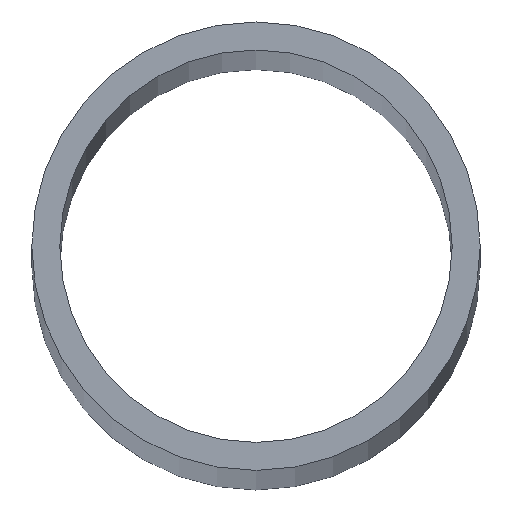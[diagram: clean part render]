
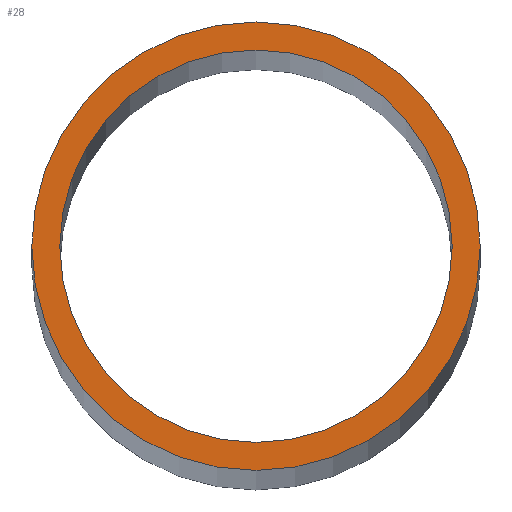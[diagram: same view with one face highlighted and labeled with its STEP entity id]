
A CAD part, top view. The second image highlights one B-rep face of the part: STEP entity #28.
In plain terms, the highlighted planar face has unit normal (0, 0, 1).
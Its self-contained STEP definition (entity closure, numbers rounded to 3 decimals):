
#4 = CIRCLE ( 'NONE', #54, 20. ) ;
#7 = AXIS2_PLACEMENT_3D ( 'NONE', #129, #162, #191 ) ;
#9 = AXIS2_PLACEMENT_3D ( 'NONE', #98, #143, #82 ) ;
#12 = CARTESIAN_POINT ( 'NONE',  ( 0., 0., 1000. ) ) ;
#14 = DIRECTION ( 'NONE',  ( 1., 0., 0. ) ) ;
#24 = AXIS2_PLACEMENT_3D ( 'NONE', #93, #89, #208 ) ;
#28 = ADVANCED_FACE ( 'NONE', ( #115, #203 ), #195, .T. ) ;
#33 = VERTEX_POINT ( 'NONE', #159 ) ;
#42 = CARTESIAN_POINT ( 'NONE',  ( -17.5, 0., 1000. ) ) ;
#54 = AXIS2_PLACEMENT_3D ( 'NONE', #188, #73, #14 ) ;
#59 = CIRCLE ( 'NONE', #9, 17.5 ) ;
#63 = AXIS2_PLACEMENT_3D ( 'NONE', #12, #210, #124 ) ;
#73 = DIRECTION ( 'NONE',  ( 0., 0., 1. ) ) ;
#75 = ORIENTED_EDGE ( 'NONE', *, *, #207, .T. ) ;
#81 = VERTEX_POINT ( 'NONE', #42 ) ;
#82 = DIRECTION ( 'NONE',  ( 1., 0., 0. ) ) ;
#88 = CARTESIAN_POINT ( 'NONE',  ( 17.5, 0., 1000. ) ) ;
#89 = DIRECTION ( 'NONE',  ( 0., 0., 1. ) ) ;
#93 = CARTESIAN_POINT ( 'NONE',  ( 0., 0., 1000. ) ) ;
#98 = CARTESIAN_POINT ( 'NONE',  ( 0., 0., 1000. ) ) ;
#102 = CIRCLE ( 'NONE', #63, 17.5 ) ;
#103 = EDGE_CURVE ( 'NONE', #140, #81, #59, .T. ) ;
#105 = CARTESIAN_POINT ( 'NONE',  ( 20., 0., 1000. ) ) ;
#108 = EDGE_LOOP ( 'NONE', ( #163, #126 ) ) ;
#115 = FACE_OUTER_BOUND ( 'NONE', #205, .T. ) ;
#124 = DIRECTION ( 'NONE',  ( 1., 0., 0. ) ) ;
#126 = ORIENTED_EDGE ( 'NONE', *, *, #103, .F. ) ;
#129 = CARTESIAN_POINT ( 'NONE',  ( 0., 0., 1000. ) ) ;
#137 = EDGE_CURVE ( 'NONE', #81, #140, #102, .T. ) ;
#140 = VERTEX_POINT ( 'NONE', #88 ) ;
#143 = DIRECTION ( 'NONE',  ( 0., 0., 1. ) ) ;
#145 = VERTEX_POINT ( 'NONE', #105 ) ;
#151 = EDGE_CURVE ( 'NONE', #145, #33, #4, .T. ) ;
#159 = CARTESIAN_POINT ( 'NONE',  ( -20., 0., 1000. ) ) ;
#162 = DIRECTION ( 'NONE',  ( 0., 0., 1. ) ) ;
#163 = ORIENTED_EDGE ( 'NONE', *, *, #137, .F. ) ;
#180 = ORIENTED_EDGE ( 'NONE', *, *, #151, .T. ) ;
#188 = CARTESIAN_POINT ( 'NONE',  ( 0., 0., 1000. ) ) ;
#191 = DIRECTION ( 'NONE',  ( 1., 0., 0. ) ) ;
#194 = CIRCLE ( 'NONE', #24, 20. ) ;
#195 = PLANE ( 'NONE',  #7 ) ;
#203 = FACE_BOUND ( 'NONE', #108, .T. ) ;
#205 = EDGE_LOOP ( 'NONE', ( #75, #180 ) ) ;
#207 = EDGE_CURVE ( 'NONE', #33, #145, #194, .T. ) ;
#208 = DIRECTION ( 'NONE',  ( 1., 0., 0. ) ) ;
#210 = DIRECTION ( 'NONE',  ( 0., 0., 1. ) ) ;
